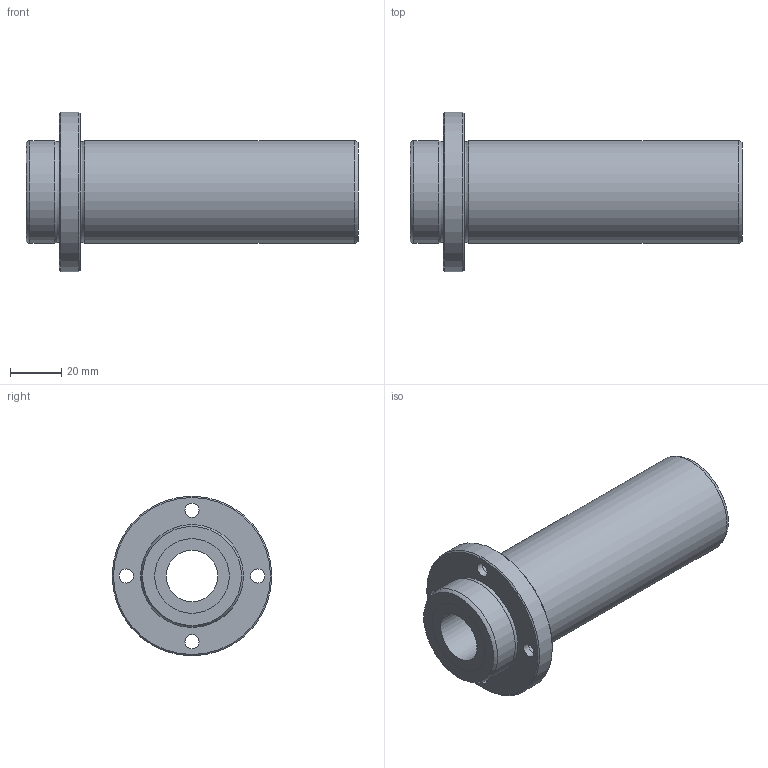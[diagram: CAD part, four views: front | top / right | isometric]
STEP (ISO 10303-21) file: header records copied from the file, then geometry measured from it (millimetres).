
FILE_DESCRIPTION((''),'2;1');
FILE_NAME('D:\製品 (図面)\カタログ用3D\メンテナンスフリー関連\STEP形式\LFLB-MF\LFLB20MF.stp','2010-06-01T15:53:45',('Tsuchiya'),(''),'Autodesk Inventor 10','Autodesk Inventor 10','');
FILE_SCHEMA(('AUTOMOTIVE_DESIGN { 1 0 10303 214 1 1 1 1 }'));
Length unit declared in the file: millimetre
Products named in the file (1): LFLB20MF
Bounding box: 129 x 62 x 62 mm (x, y, z)
Volume: 133666.8 mm3; surface area: 30752.5 mm2
Topology: 1 solids, 1 shells, 30 faces, 54 edges, 34 vertices
Faces by surface type: bspline 14, cylinder 6, plane 6, cone 2, torus 2
Full cylindrical faces by diameter (mm): 20 x1, 29 x2, 40 x2, 62 x1
Entity records: 907 total; most frequent: CARTESIAN_POINT 371, DIRECTION 102, ORIENTED_EDGE 68, EDGE_LOOP 68, AXIS2_PLACEMENT_3D 51, FACE_BOUND 38, VERTEX_POINT 34, CIRCLE 34
